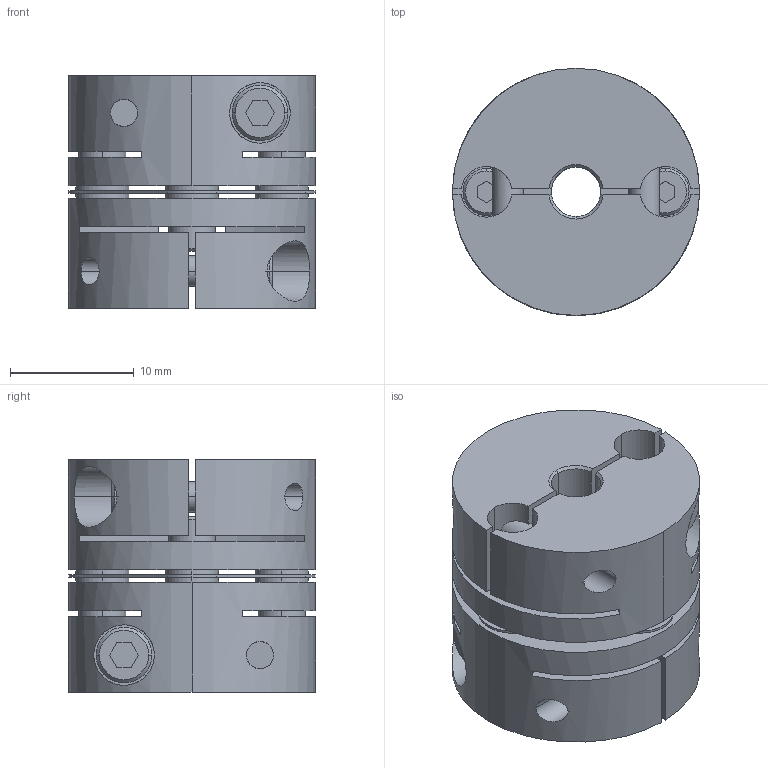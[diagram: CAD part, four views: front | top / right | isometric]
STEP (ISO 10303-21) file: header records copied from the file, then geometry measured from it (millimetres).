
FILE_DESCRIPTION((''),'2;1');
FILE_NAME('LAS-20C-4×6.stp','2011-08-10T08:52:10',(''),(''),'AutoCAD STEP 2000i','AutoCAD 2000i',', , ');
FILE_SCHEMA(('CONFIG_CONTROL_DESIGN'));
Length unit declared in the file: millimetre
Products named in the file (5): LAS-20C-4×4; 忣兜1; LA-2002-D04-1; LA-2002-D04; LAS20-ITA
Assembly tree (4 placements, depth 2):
  LAS-20C-4×4
    忣兜1
    LA-2002-D04-1
    LA-2002-D04
    LAS20-ITA
Bounding box: 20 x 20 x 18.8 mm (x, y, z)
Volume: 4639.4 mm3; surface area: 4561 mm2
Topology: 1 solids, 1 shells, 236 faces, 624 edges, 408 vertices
Faces by surface type: plane 112, cylinder 96, cone 28
Entity records: 8203 total; most frequent: CARTESIAN_POINT 2009, DIRECTION 1302, ORIENTED_EDGE 1248, EDGE_CURVE 624, AXIS2_PLACEMENT_3D 477, VERTEX_POINT 408, VECTOR 348, LINE 348
